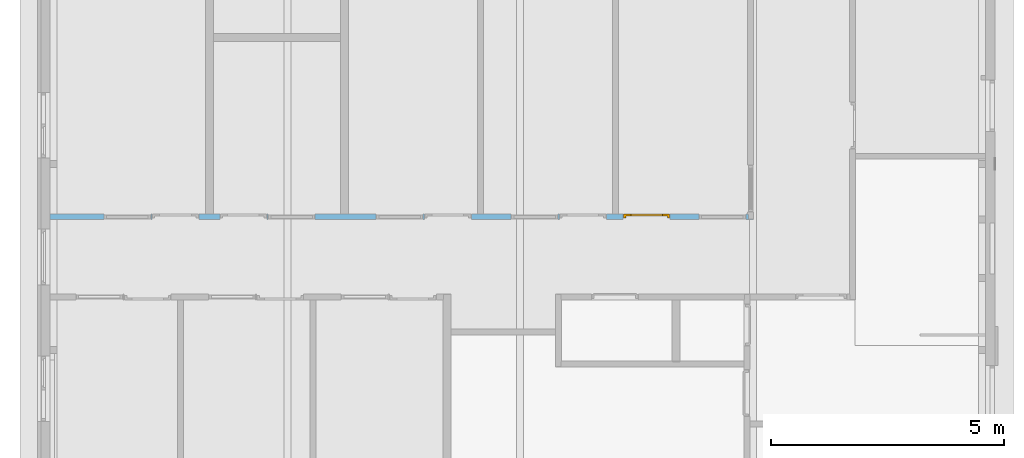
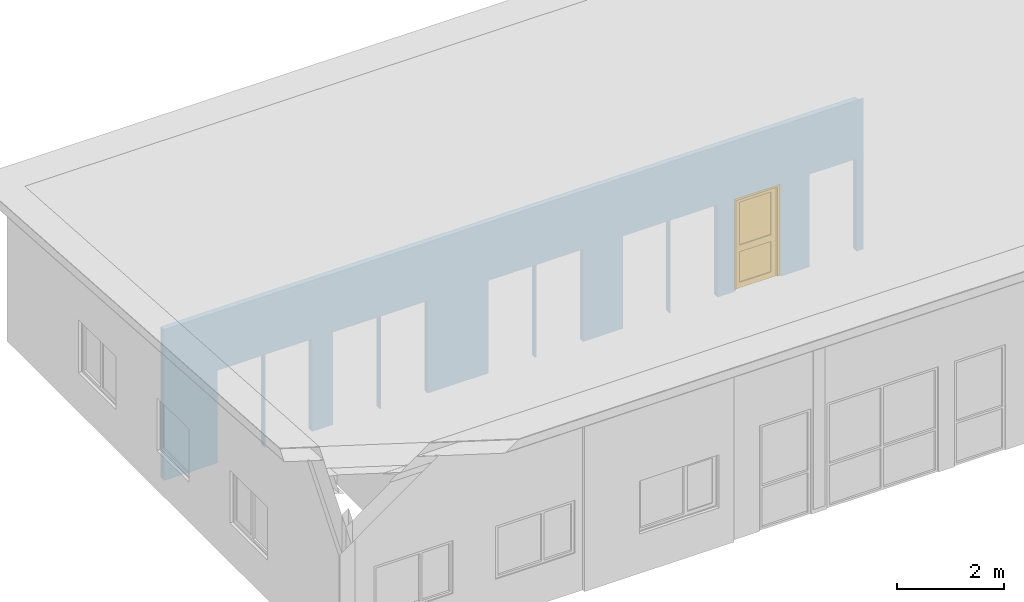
# One storey, part 22 of 37: 1 door, 10 openings, plus 1 element that does not belong to this part.
"""IFC2X3 building model written with IfcOpenShell, lengths in millimetres."""

from ifc_helpers import new_model, entity, si_unit, converted_unit, frame, frame_2d, origin, origin_with_axes, place, context, subcontext, project, spatial, polyline, rectangle, outline, extrude, clip, halfspace, faceted_brep, material, layer, layer_set, layer_usage, type_object, element, fill, save


model = new_model("IFC2X3")

# Units and contexts
model_context = context("Model", 3, precision=1e-05, world=origin())
plan_context = context("Plan", 3, precision=1e-05, world=origin())
body_context = subcontext(model_context, "Body", "Model", "MODEL_VIEW")
ifc_project = project(units=[si_unit("LENGTHUNIT", "METRE", prefix="MILLI"), converted_unit("PLANEANGLEUNIT", "DEGREE", entity("IfcPlaneAngleMeasure", 0.0174532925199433), si_unit("PLANEANGLEUNIT", "RADIAN"), dimensions=[0, 0, 0, 0, 0, 0, 0]), si_unit("AREAUNIT", "SQUARE_METRE"), si_unit("VOLUMEUNIT", "CUBIC_METRE")], contexts=[model_context, plan_context])

# Building, storey
building_placement = place(None, origin())
building = spatial("IfcBuilding", under=ifc_project, at=building_placement, Name="HEKF Administrasjonbygg", CompositionType="ELEMENT")
storey_placement = place(building_placement, frame((0.0, 0.0, 9900.0), z_axis=(0.0, 0.0, 1.0), x_axis=(1.0, 0.0, 0.0)))
storey = spatial("IfcBuildingStorey", under=building, at=storey_placement, Name="Plan 2", CompositionType="ELEMENT", Elevation=9900.0)

# Wall, openings, door
ifc_material_1 = material(Name="gips")
ifc_layer_1 = layer(ifc_material_1, 13.0)
ifc_material_2 = material(Name="riegel stål 100")
ifc_layer_2 = layer(ifc_material_2, 100.0)
ifc_material_3 = material(Name="gips")
ifc_layer_3 = layer(ifc_material_3, 13.0)
ifc_layer_set = layer_set([ifc_layer_1, ifc_layer_2, ifc_layer_3])
ifc_layer_usage = layer_usage(ifc_layer_set, "AXIS2", "POSITIVE", 0.0)
wall_placement = place(storey_placement, frame((24887.0, -5075.0, 0.0), z_axis=(0.0, 0.0, 1.0), x_axis=(-1.0, 0.0, 0.0)))
wall = element("IfcWallStandardCase", 1, at=wall_placement, inside=storey, material=ifc_layer_usage, context=body_context, shape_type="Clipping", body=[
    clip(extrude(outline(polyline([(-113.0, 126.0), (-113.0, 113.0), (-13.0, 113.0), (-13.0, 13.0), (0.0, 13.0), (0.0, 0.0), (2774.0, 0.0), (2774.0, 13.0), (2787.0, 13.0), (2787.0, 0.0), (14987.00000000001, 0.0), (14987.00000000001, 126.0), (-113.0, 126.0)])), origin_with_axes(), (0.0, 0.0, 1.0), 3446.733333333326), halfspace(frame((2787.0, 0.0, 3438.333333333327), z_axis=(-9.402241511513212e-18, 0.06651901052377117, -0.9977851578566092), x_axis=(1.0, 0.0, 0.0)), True)),
])
opening_1_placement = place(wall_placement, frame((9293.284477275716, 0.0, 0.0), z_axis=(0.0, 1.0, 0.0), x_axis=(0.0, 0.0, 1.0)))
element("IfcOpeningElement", 2, at=opening_1_placement, cuts=wall, Name="Window opening", ObjectType="Opening", context=body_context, shape_type="SweptSolid", body=[
    extrude(rectangle(XDim=2110.0, YDim=1010.0, at=frame_2d((1055.0, 505.0), x_axis=(1.0, 0.0))), origin_with_axes(), (0.0, 0.0, 1.0), 126.0),
])
opening_2_placement = place(wall_placement, frame((6972.0, 0.0, 0.0), z_axis=(0.0, 1.0, 0.0), x_axis=(0.0, 0.0, 1.0)))
element("IfcOpeningElement", 3, at=opening_2_placement, cuts=wall, Name="Window opening", ObjectType="Opening", context=body_context, shape_type="SweptSolid", body=[
    extrude(rectangle(XDim=2110.0, YDim=1010.0, at=frame_2d((1055.0, 505.0), x_axis=(1.0, 0.0))), origin_with_axes(), (0.0, 0.0, 1.0), 126.0),
])
opening_3_placement = place(wall_placement, frame((12823.28447727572, 0.0, 0.0), z_axis=(0.0, 1.0, 0.0), x_axis=(0.0, 0.0, 1.0)))
element("IfcOpeningElement", 4, at=opening_3_placement, cuts=wall, Name="Window opening", ObjectType="Opening", context=body_context, shape_type="SweptSolid", body=[
    extrude(rectangle(XDim=2110.0, YDim=1010.0, at=frame_2d((1055.0, 505.0), x_axis=(1.0, 0.0))), origin_with_axes(), (0.0, 0.0, 1.0), 126.0),
])
opening_4_placement = place(wall_placement, frame((4072.0, 0.0, 0.0), z_axis=(0.0, 1.0, 0.0), x_axis=(0.0, 0.0, 1.0)))
element("IfcOpeningElement", 5, at=opening_4_placement, cuts=wall, Name="Window opening", ObjectType="Opening", context=body_context, shape_type="SweptSolid", body=[
    extrude(rectangle(XDim=2110.0, YDim=1010.0, at=frame_2d((1055.0, 505.0), x_axis=(1.0, 0.0))), origin_with_axes(), (0.0, 0.0, 1.0), 126.0),
])
opening_5_placement = place(wall_placement, frame((37.0, 0.0, 0.0), z_axis=(0.0, 1.0, 0.0), x_axis=(0.0, 0.0, 1.0)))
element("IfcOpeningElement", 6, at=opening_5_placement, cuts=wall, Name="Window opening", ObjectType="Opening", context=body_context, shape_type="SweptSolid", body=[
    extrude(rectangle(XDim=2110.0, YDim=1010.0, at=frame_2d((1055.0, 505.0), x_axis=(1.0, 0.0))), origin_with_axes(), (0.0, 0.0, 1.0), 126.0),
])
opening_6_placement = place(wall_placement, frame((11788.28447727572, 0.0, 0.0), z_axis=(0.0, 1.0, 0.0), x_axis=(0.0, 0.0, 1.0)))
element("IfcOpeningElement", 7, at=opening_6_placement, cuts=wall, Name="garasjeport med glassfelter:45x6", ObjectType="Opening", context=body_context, shape_type="SweptSolid", body=[
    extrude(rectangle(XDim=2110.0, YDim=1010.0, at=frame_2d((1055.0, 505.0), x_axis=(1.0, 0.0))), origin_with_axes(), (0.0, 0.0, 1.0), 126.0),
])
opening_7_placement = place(wall_placement, frame((10328.28447727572, 0.0, 0.0), z_axis=(0.0, 1.0, 0.0), x_axis=(0.0, 0.0, 1.0)))
element("IfcOpeningElement", 8, at=opening_7_placement, cuts=wall, Name="garasjeport med glassfelter:45x6", ObjectType="Opening", context=body_context, shape_type="SweptSolid", body=[
    extrude(rectangle(XDim=2110.0, YDim=1010.0, at=frame_2d((1055.0, 505.0), x_axis=(1.0, 0.0))), origin_with_axes(), (0.0, 0.0, 1.0), 126.0),
])
opening_8_placement = place(wall_placement, frame((5937.0, 0.0, 0.0), z_axis=(0.0, 1.0, 0.0), x_axis=(0.0, 0.0, 1.0)))
element("IfcOpeningElement", 9, at=opening_8_placement, cuts=wall, Name="garasjeport med glassfelter:45x6", ObjectType="Opening", context=body_context, shape_type="SweptSolid", body=[
    extrude(rectangle(XDim=2110.0, YDim=1010.0, at=frame_2d((1055.0, 505.0), x_axis=(1.0, 0.0))), origin_with_axes(), (0.0, 0.0, 1.0), 126.0),
])
opening_9_placement = place(wall_placement, frame((3037.0, 0.0, 0.0), z_axis=(0.0, 1.0, 0.0), x_axis=(0.0, 0.0, 1.0)))
element("IfcOpeningElement", 10, at=opening_9_placement, cuts=wall, Name="garasjeport med glassfelter:45x6", ObjectType="Opening", context=body_context, shape_type="SweptSolid", body=[
    extrude(rectangle(XDim=2110.0, YDim=1010.0, at=frame_2d((1055.0, 505.0), x_axis=(1.0, 0.0))), origin_with_axes(), (0.0, 0.0, 1.0), 126.0),
])
opening_10_placement = place(wall_placement, frame((1664.0, 0.0, 0.0), z_axis=(0.0, 1.0, 0.0), x_axis=(0.0, 0.0, 1.0)))
opening_10 = element("IfcOpeningElement", 11, at=opening_10_placement, cuts=wall, Name="garasjeport med glassfelter:45x6", ObjectType="Opening", context=body_context, shape_type="SweptSolid", body=[
    extrude(rectangle(XDim=2110.0, YDim=1010.0, at=frame_2d((1055.0, 505.0), x_axis=(1.0, 0.0))), origin_with_axes(), (0.0, 0.0, 1.0), 126.0),
])
ifc_material_4 = material()
door_style = type_object("IfcDoorStyle", Name="D107", ConstructionType="NOTDEFINED", OperationType="USERDEFINED", ParameterTakesPrecedence=False, Sizeable=False)
door_placement = place(opening_10_placement, frame((0.0, 0.0, 0.0), z_axis=(1.0, 0.0, 0.0), x_axis=(0.0, 1.0, 0.0)))
door = element("IfcDoor", 12, at=door_placement, inside=storey, type_object=door_style, material=ifc_material_4, Name="D107", OverallHeight=2110.0, OverallWidth=1010.0, context=body_context, shape_type="Brep", body=[
    faceted_brep([(1000.0, 0.9999999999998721, 2090.0), (1000.0, 1.0, -2.816687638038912e-15), (950.0, 1.000000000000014, -2.816687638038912e-15), (950.0, 0.9999999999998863, 2090.0), (1000.0, 93.0, 2.816687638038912e-15), (1000.0, 92.99999999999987, 2090.0), (950.0, 92.99999999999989, 2090.0), (950.0, 93.00000000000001, 2.816687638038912e-15), (1000.0, 1.0, -2.816687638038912e-15), (1000.0, 0.9999999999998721, 2090.0), (1000.0, 92.99999999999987, 2090.0), (1000.0, 93.0, 2.816687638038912e-15), (950.0, 1.000000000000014, -2.816687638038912e-15), (1000.0, 1.0, -2.816687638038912e-15), (1000.0, 93.0, 2.816687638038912e-15), (950.0, 93.00000000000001, 2.816687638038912e-15), (950.0, 0.9999999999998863, 2090.0), (950.0, 1.000000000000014, -2.816687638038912e-15), (950.0, 93.00000000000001, 2.816687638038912e-15), (950.0, 92.99999999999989, 2090.0), (1000.0, 0.9999999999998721, 2090.0), (950.0, 0.9999999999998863, 2090.0), (950.0, 92.99999999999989, 2090.0), (1000.0, 92.99999999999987, 2090.0)], [[[0, 1, 2, 3]], [[4, 5, 6, 7]], [[8, 9, 10, 11]], [[12, 13, 14, 15]], [[16, 17, 18, 19]], [[20, 21, 22, 23]]], orient=[[False], [False], [False], [False], [False], [False]]),
    faceted_brep([(60.0, 1.0000000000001, 2090.0), (60.0, 1.000000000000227, -2.816687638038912e-15), (10.0, 1.000000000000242, -2.816687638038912e-15), (10.0, 1.000000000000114, 2090.0), (60.0, 93.00000000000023, 2.816687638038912e-15), (60.0, 93.0000000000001, 2090.0), (10.0, 93.00000000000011, 2090.0), (10.0, 93.00000000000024, 2.816687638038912e-15), (60.0, 1.000000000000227, -2.816687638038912e-15), (60.0, 1.0000000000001, 2090.0), (60.0, 93.0000000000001, 2090.0), (60.0, 93.00000000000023, 2.816687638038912e-15), (10.0, 1.000000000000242, -2.816687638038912e-15), (60.0, 1.000000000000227, -2.816687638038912e-15), (60.0, 93.00000000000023, 2.816687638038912e-15), (10.0, 93.00000000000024, 2.816687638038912e-15), (10.0, 1.000000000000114, 2090.0), (10.0, 1.000000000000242, -2.816687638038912e-15), (10.0, 93.00000000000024, 2.816687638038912e-15), (10.0, 93.00000000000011, 2090.0), (60.0, 1.0000000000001, 2090.0), (10.0, 1.000000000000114, 2090.0), (10.0, 93.00000000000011, 2090.0), (60.0, 93.0000000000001, 2090.0)], [[[0, 1, 2, 3]], [[4, 5, 6, 7]], [[8, 9, 10, 11]], [[12, 13, 14, 15]], [[16, 17, 18, 19]], [[20, 21, 22, 23]]], orient=[[False], [False], [False], [False], [False], [False]]),
    faceted_brep([(950.0, 0.9999999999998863, 2090.0), (950.0, 0.9999999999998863, 2040.0), (60.00000000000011, 1.0000000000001, 2040.0), (60.00000000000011, 1.0000000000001, 2090.0), (950.0, 92.99999999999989, 2040.0), (950.0, 92.99999999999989, 2090.0), (60.00000000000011, 93.0000000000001, 2090.0), (60.00000000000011, 93.0000000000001, 2040.0), (950.0, 0.9999999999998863, 2040.0), (950.0, 0.9999999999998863, 2090.0), (950.0, 92.99999999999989, 2090.0), (950.0, 92.99999999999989, 2040.0), (60.00000000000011, 1.0000000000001, 2040.0), (950.0, 0.9999999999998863, 2040.0), (950.0, 92.99999999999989, 2040.0), (60.00000000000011, 93.0000000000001, 2040.0), (60.00000000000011, 1.0000000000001, 2090.0), (60.00000000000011, 1.0000000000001, 2040.0), (60.00000000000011, 93.0000000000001, 2040.0), (60.00000000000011, 93.0000000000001, 2090.0), (950.0, 0.9999999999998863, 2090.0), (60.00000000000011, 1.0000000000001, 2090.0), (60.00000000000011, 93.0000000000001, 2090.0), (950.0, 92.99999999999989, 2090.0)], [[[0, 1, 2, 3]], [[4, 5, 6, 7]], [[8, 9, 10, 11]], [[12, 13, 14, 15]], [[16, 17, 18, 19]], [[20, 21, 22, 23]]], orient=[[False], [False], [False], [False], [False], [False]]),
    faceted_brep([(970.0, 0.9999999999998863, 2060.0), (970.0, 1.000000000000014, -20.0), (845.0, 1.000000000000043, -20.0), (845.0, 0.9999999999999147, 2060.0), (970.0, 41.00000000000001, -20.0), (970.0, 40.99999999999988, 2060.0), (845.0, 40.99999999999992, 2060.0), (845.0, 41.00000000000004, -20.0), (970.0, 1.000000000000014, -20.0), (970.0, 0.9999999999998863, 2060.0), (970.0, 40.99999999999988, 2060.0), (970.0, 41.00000000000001, -20.0), (845.0, 1.000000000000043, -20.0), (970.0, 1.000000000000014, -20.0), (970.0, 41.00000000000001, -20.0), (845.0, 41.00000000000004, -20.0), (845.0, 0.9999999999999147, 2060.0), (845.0, 1.000000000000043, -20.0), (845.0, 41.00000000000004, -20.0), (845.0, 40.99999999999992, 2060.0), (970.0, 0.9999999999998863, 2060.0), (845.0, 0.9999999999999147, 2060.0), (845.0, 40.99999999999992, 2060.0), (970.0, 40.99999999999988, 2060.0)], [[[0, 1, 2, 3]], [[4, 5, 6, 7]], [[8, 9, 10, 11]], [[12, 13, 14, 15]], [[16, 17, 18, 19]], [[20, 21, 22, 23]]], orient=[[False], [False], [False], [False], [False], [False]]),
    faceted_brep([(165.0000000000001, 1.000000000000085, 2060.0), (165.0000000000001, 1.000000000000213, -20.0), (40.00000000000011, 1.000000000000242, -20.0), (40.00000000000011, 1.000000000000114, 2060.0), (165.0000000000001, 41.00000000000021, -20.0), (165.0000000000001, 41.00000000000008, 2060.0), (40.00000000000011, 41.00000000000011, 2060.0), (40.00000000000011, 41.00000000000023, -20.0), (165.0000000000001, 1.000000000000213, -20.0), (165.0000000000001, 1.000000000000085, 2060.0), (165.0000000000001, 41.00000000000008, 2060.0), (165.0000000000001, 41.00000000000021, -20.0), (40.00000000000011, 1.000000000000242, -20.0), (165.0000000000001, 1.000000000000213, -20.0), (165.0000000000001, 41.00000000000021, -20.0), (40.00000000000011, 41.00000000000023, -20.0), (40.00000000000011, 1.000000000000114, 2060.0), (40.00000000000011, 1.000000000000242, -20.0), (40.00000000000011, 41.00000000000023, -20.0), (40.00000000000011, 41.00000000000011, 2060.0), (165.0000000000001, 1.000000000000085, 2060.0), (40.00000000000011, 1.000000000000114, 2060.0), (40.00000000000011, 41.00000000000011, 2060.0), (165.0000000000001, 41.00000000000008, 2060.0)], [[[0, 1, 2, 3]], [[4, 5, 6, 7]], [[8, 9, 10, 11]], [[12, 13, 14, 15]], [[16, 17, 18, 19]], [[20, 21, 22, 23]]], orient=[[False], [False], [False], [False], [False], [False]]),
    faceted_brep([(845.0, 1.000000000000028, 105.0), (845.0, 1.000000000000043, -20.0), (165.0000000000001, 1.000000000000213, -20.0), (165.0000000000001, 1.000000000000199, 105.0), (845.0, 41.00000000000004, -20.0), (845.0, 41.00000000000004, 105.0), (165.0000000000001, 41.0000000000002, 105.0), (165.0000000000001, 41.00000000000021, -20.0), (845.0, 1.000000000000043, -20.0), (845.0, 1.000000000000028, 105.0), (845.0, 41.00000000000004, 105.0), (845.0, 41.00000000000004, -20.0), (165.0000000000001, 1.000000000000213, -20.0), (845.0, 1.000000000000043, -20.0), (845.0, 41.00000000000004, -20.0), (165.0000000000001, 41.00000000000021, -20.0), (165.0000000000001, 1.000000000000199, 105.0), (165.0000000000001, 1.000000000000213, -20.0), (165.0000000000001, 41.00000000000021, -20.0), (165.0000000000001, 41.0000000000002, 105.0), (845.0, 1.000000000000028, 105.0), (165.0000000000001, 1.000000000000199, 105.0), (165.0000000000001, 41.0000000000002, 105.0), (845.0, 41.00000000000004, 105.0)], [[[0, 1, 2, 3]], [[4, 5, 6, 7]], [[8, 9, 10, 11]], [[12, 13, 14, 15]], [[16, 17, 18, 19]], [[20, 21, 22, 23]]], orient=[[False], [False], [False], [False], [False], [False]]),
    faceted_brep([(845.0, 0.9999999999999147, 2060.0), (845.0, 0.999999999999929, 1935.0), (165.0000000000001, 1.0000000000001, 1935.0), (165.0000000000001, 1.000000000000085, 2060.0), (845.0, 40.99999999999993, 1935.0), (845.0, 40.99999999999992, 2060.0), (165.0000000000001, 41.00000000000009, 2060.0), (165.0000000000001, 41.00000000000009, 1935.0), (845.0, 0.999999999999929, 1935.0), (845.0, 0.9999999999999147, 2060.0), (845.0, 40.99999999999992, 2060.0), (845.0, 40.99999999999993, 1935.0), (165.0000000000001, 1.0000000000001, 1935.0), (845.0, 0.999999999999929, 1935.0), (845.0, 40.99999999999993, 1935.0), (165.0000000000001, 41.00000000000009, 1935.0), (165.0000000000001, 1.000000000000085, 2060.0), (165.0000000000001, 1.0000000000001, 1935.0), (165.0000000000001, 41.00000000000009, 1935.0), (165.0000000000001, 41.00000000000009, 2060.0), (845.0, 0.9999999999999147, 2060.0), (165.0000000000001, 1.000000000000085, 2060.0), (165.0000000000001, 41.00000000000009, 2060.0), (845.0, 40.99999999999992, 2060.0)], [[[0, 1, 2, 3]], [[4, 5, 6, 7]], [[8, 9, 10, 11]], [[12, 13, 14, 15]], [[16, 17, 18, 19]], [[20, 21, 22, 23]]], orient=[[False], [False], [False], [False], [False], [False]]),
    faceted_brep([(845.0, 0.9999999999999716, 955.0), (845.0, 0.9999999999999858, 805.0), (165.0000000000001, 1.000000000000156, 805.0), (165.0000000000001, 1.000000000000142, 955.0), (845.0, 40.99999999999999, 805.0), (845.0, 40.99999999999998, 955.0), (165.0000000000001, 41.00000000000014, 955.0), (165.0000000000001, 41.00000000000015, 805.0), (845.0, 0.9999999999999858, 805.0), (845.0, 0.9999999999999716, 955.0), (845.0, 40.99999999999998, 955.0), (845.0, 40.99999999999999, 805.0), (165.0000000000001, 1.000000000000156, 805.0), (845.0, 0.9999999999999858, 805.0), (845.0, 40.99999999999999, 805.0), (165.0000000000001, 41.00000000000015, 805.0), (165.0000000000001, 1.000000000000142, 955.0), (165.0000000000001, 1.000000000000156, 805.0), (165.0000000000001, 41.00000000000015, 805.0), (165.0000000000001, 41.00000000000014, 955.0), (845.0, 0.9999999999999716, 955.0), (165.0000000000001, 1.000000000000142, 955.0), (165.0000000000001, 41.00000000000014, 955.0), (845.0, 40.99999999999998, 955.0)], [[[0, 1, 2, 3]], [[4, 5, 6, 7]], [[8, 9, 10, 11]], [[12, 13, 14, 15]], [[16, 17, 18, 19]], [[20, 21, 22, 23]]], orient=[[False], [False], [False], [False], [False], [False]]),
    faceted_brep([(845.0, 21.00000000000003, 105.0), (165.0000000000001, 21.0000000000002, 105.0), (165.0000000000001, 21.00000000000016, 805.0), (845.0, 20.99999999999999, 805.0), (845.0, 22.00000000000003, 105.0), (845.0, 21.99999999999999, 805.0), (165.0000000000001, 22.00000000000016, 805.0), (165.0000000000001, 22.0000000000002, 105.0), (845.0, 21.00000000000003, 105.0), (845.0, 22.00000000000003, 105.0), (165.0000000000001, 22.0000000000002, 105.0), (165.0000000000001, 21.0000000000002, 105.0), (165.0000000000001, 21.0000000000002, 105.0), (165.0000000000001, 22.0000000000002, 105.0), (165.0000000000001, 22.00000000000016, 805.0), (165.0000000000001, 21.00000000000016, 805.0), (165.0000000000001, 21.00000000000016, 805.0), (165.0000000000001, 22.00000000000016, 805.0), (845.0, 21.99999999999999, 805.0), (845.0, 20.99999999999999, 805.0), (845.0, 20.99999999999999, 805.0), (845.0, 21.99999999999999, 805.0), (845.0, 22.00000000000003, 105.0), (845.0, 21.00000000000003, 105.0)], [[[0, 1, 2, 3]], [[4, 5, 6, 7]], [[8, 9, 10, 11]], [[12, 13, 14, 15]], [[16, 17, 18, 19]], [[20, 21, 22, 23]]], orient=[[False], [False], [False], [False], [False], [False]]),
    faceted_brep([(845.0, 20.99999999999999, 955.0), (165.0000000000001, 21.00000000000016, 955.0), (165.0000000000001, 21.0000000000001, 1935.0), (845.0, 20.99999999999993, 1935.0), (845.0, 21.99999999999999, 955.0), (845.0, 21.99999999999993, 1935.0), (165.0000000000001, 22.0000000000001, 1935.0), (165.0000000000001, 22.00000000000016, 955.0), (845.0, 20.99999999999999, 955.0), (845.0, 21.99999999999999, 955.0), (165.0000000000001, 22.00000000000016, 955.0), (165.0000000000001, 21.00000000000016, 955.0), (165.0000000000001, 21.00000000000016, 955.0), (165.0000000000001, 22.00000000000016, 955.0), (165.0000000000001, 22.0000000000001, 1935.0), (165.0000000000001, 21.0000000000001, 1935.0), (165.0000000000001, 21.0000000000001, 1935.0), (165.0000000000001, 22.0000000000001, 1935.0), (845.0, 21.99999999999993, 1935.0), (845.0, 20.99999999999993, 1935.0), (845.0, 20.99999999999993, 1935.0), (845.0, 21.99999999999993, 1935.0), (845.0, 21.99999999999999, 955.0), (845.0, 20.99999999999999, 955.0)], [[[0, 1, 2, 3]], [[4, 5, 6, 7]], [[8, 9, 10, 11]], [[12, 13, 14, 15]], [[16, 17, 18, 19]], [[20, 21, 22, 23]]], orient=[[False], [False], [False], [False], [False], [False]]),
])
fill(opening_10, door)

save(model, "model.ifc")
